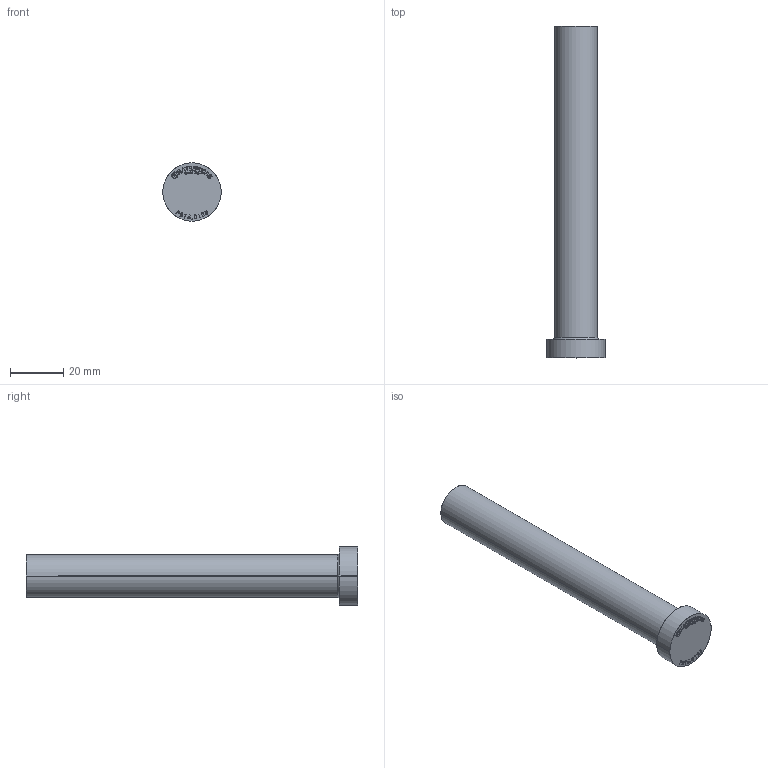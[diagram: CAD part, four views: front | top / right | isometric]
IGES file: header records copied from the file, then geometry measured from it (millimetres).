
Start section: SolidWorks IGES file using analytic representation for surfaces
Global section: file name: C:\Users\User\Downloads\Matripeça 31-08 tar\PB - PINO EXTRATOR TIPO _B_ (CATÁLOGO)\PB16,0\PB16,0125.IGS; native system: SolidWorks 2024; preprocessor: SolidWorks 2024; author: User; date: 260901.154900; units: millimetre
Bounding box: 22 x 125 x 22 mm (x, y, z)
Surface area: 7175.3 mm2 (no closed solid volume)
Topology: 0 solids, 0 shells, 397 faces, 4022 edges, 4022 vertices
Faces by surface type: bspline 383, revolution 14
